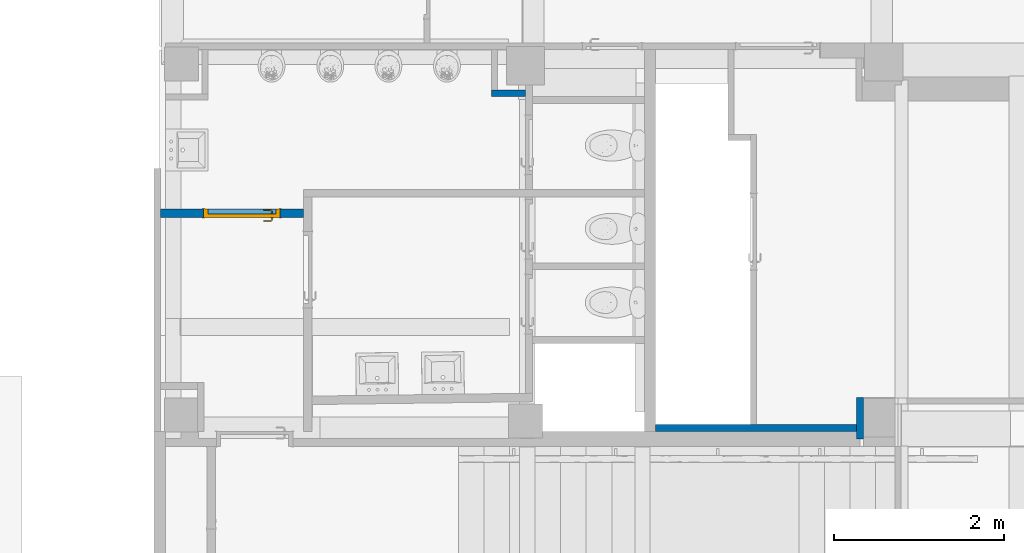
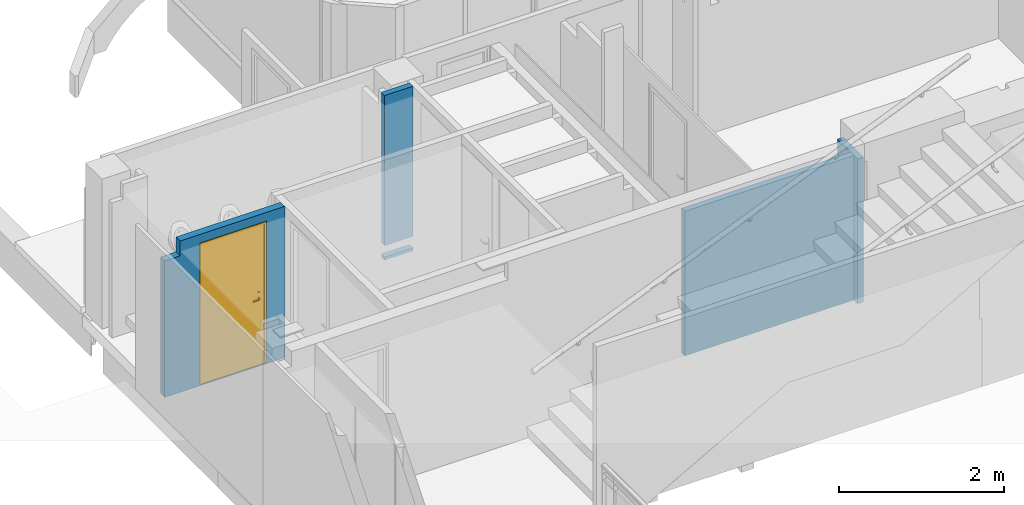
# One storey, part 4 of 32: 4 walls, 1 door, 2 openings.
"""IFC4 building model written with IfcOpenShell, lengths in metres."""

from ifc_helpers import new_model, entity, si_unit, converted_unit, derived_unit, direction, frame, origin, place, context, subcontext, project, spatial, indexed_curve, outline, extrude, polygons, source, transform, mapped, material, material_list, layer, layer_set, constituent, constituent_set, type_object, type_shapes, element, fill, save


model = new_model("IFC4")

# Units and contexts
model_context = context("Model", 3, precision=1e-05, world=origin(), true_north=direction((6.12303176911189e-17, 1.0)))
body_context = subcontext(model_context, "Body", "Model", "MODEL_VIEW")
ifc_project = project(units=[si_unit("LENGTHUNIT", "METRE"), si_unit("AREAUNIT", "SQUARE_METRE"), si_unit("VOLUMEUNIT", "CUBIC_METRE"), converted_unit("PLANEANGLEUNIT", "DEGREE", entity("IfcRatioMeasure", 0.0174532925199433), si_unit("PLANEANGLEUNIT", "RADIAN"), dimensions=[0, 0, 0, 0, 0, 0, 0]), si_unit("MASSUNIT", "GRAM", prefix="KILO"), derived_unit("MASSDENSITYUNIT", [(si_unit("MASSUNIT", "GRAM", prefix="KILO"), 1), (si_unit("LENGTHUNIT", "METRE"), -3)]), derived_unit("MOMENTOFINERTIAUNIT", [(si_unit("LENGTHUNIT", "METRE"), 4)]), si_unit("TIMEUNIT", "SECOND"), si_unit("FREQUENCYUNIT", "HERTZ"), si_unit("THERMODYNAMICTEMPERATUREUNIT", "DEGREE_CELSIUS"), derived_unit("THERMALTRANSMITTANCEUNIT", [(si_unit("MASSUNIT", "GRAM", prefix="KILO"), 1), (si_unit("THERMODYNAMICTEMPERATUREUNIT", "KELVIN"), -1), (si_unit("TIMEUNIT", "SECOND"), -3)]), derived_unit("VOLUMETRICFLOWRATEUNIT", [(si_unit("LENGTHUNIT", "METRE"), 3), (si_unit("TIMEUNIT", "SECOND"), -1)]), si_unit("ELECTRICCURRENTUNIT", "AMPERE"), si_unit("ELECTRICVOLTAGEUNIT", "VOLT"), si_unit("POWERUNIT", "WATT"), si_unit("FORCEUNIT", "NEWTON", prefix="KILO"), si_unit("ILLUMINANCEUNIT", "LUX"), si_unit("LUMINOUSFLUXUNIT", "LUMEN"), si_unit("LUMINOUSINTENSITYUNIT", "CANDELA"), derived_unit("USERDEFINED", [(si_unit("MASSUNIT", "GRAM", prefix="KILO"), -1), (si_unit("LENGTHUNIT", "METRE"), -2), (si_unit("TIMEUNIT", "SECOND"), 3), (si_unit("LUMINOUSFLUXUNIT", "LUMEN"), 1)]), derived_unit("LINEARVELOCITYUNIT", [(si_unit("LENGTHUNIT", "METRE"), 1), (si_unit("TIMEUNIT", "SECOND"), -1)]), si_unit("PRESSUREUNIT", "PASCAL"), derived_unit("USERDEFINED", [(si_unit("LENGTHUNIT", "METRE"), -2), (si_unit("MASSUNIT", "GRAM", prefix="KILO"), 1), (si_unit("TIMEUNIT", "SECOND"), -2)]), derived_unit("LINEARFORCEUNIT", [(si_unit("MASSUNIT", "GRAM", prefix="KILO"), 1), (si_unit("LENGTHUNIT", "METRE"), 1), (si_unit("TIMEUNIT", "SECOND"), -2), (si_unit("LENGTHUNIT", "METRE"), -1)]), derived_unit("PLANARFORCEUNIT", [(si_unit("MASSUNIT", "GRAM", prefix="KILO"), 1), (si_unit("LENGTHUNIT", "METRE"), 1), (si_unit("TIMEUNIT", "SECOND"), -2), (si_unit("LENGTHUNIT", "METRE"), -2)])], contexts=[model_context])

# Site, building, storey
site_placement = place(None, origin())
site = spatial("IfcSite", under=ifc_project, at=site_placement, Name="Default", CompositionType="ELEMENT")
building_placement = place(site_placement, origin())
building = spatial("IfcBuilding", under=site, at=building_placement, Name="HOTEL CONSULAIRE BOULOGNE SUR MER", CompositionType="ELEMENT")
storey_placement = place(building_placement, frame((0.0, 0.0, -2.70343668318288)))
storey = spatial("IfcBuildingStorey", under=building, at=storey_placement, Name="SS1", CompositionType="ELEMENT", Elevation=-2.70343668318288)

# Wall, opening, door
ifc_material_1 = material(Name="Mur par défaut", Category="Divers")
ifc_layer_1 = layer(ifc_material_1, 0.1, Name="Mur par défaut", Category="Divers")
ifc_layer_set_1 = layer_set([ifc_layer_1], Name="Mur de base:Générique - Int. 100 mm")
wall_type_1 = type_object("IfcWallType", Name="Mur de base:Générique - Int. 100 mm", PredefinedType="NOTDEFINED", material=ifc_layer_set_1)
wall_1_placement = place(storey_placement, frame((-3.84169934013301, -17.3491387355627, 0.195), z_axis=(0.0, 0.0, 1.0), x_axis=(-1.0, 0.0, 0.0)))
wall_1 = element("IfcWall", 1, at=wall_1_placement, inside=storey, type_object=wall_type_1, material=ifc_layer_set_1, Name="Mur de base:Générique - Int. 100 mm", ObjectType="Mur de base:Générique - Int. 100 mm", PredefinedType="NOTDEFINED", context=body_context, shape_type="Tessellation", body=[
    polygons([(4.96349598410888e-16, -0.0500000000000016, 0.0), (1.68028922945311, -0.0500000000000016, 0.0), (1.68028922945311, -0.0500000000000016, 2.01843668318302), (1.4628088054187, -0.0500000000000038, 2.01843668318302), (1.4628088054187, -0.0500000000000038, 2.23843668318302), (-4.50839662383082e-17, -0.0500000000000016, 2.23843668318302), (1.175, -0.0500000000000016, 2.095), (1.175, -0.0500000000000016, 0.0199999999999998), (0.275000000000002, -0.0500000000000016, 0.0199999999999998), (0.275000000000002, -0.0500000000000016, 2.095), (1.68028922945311, 0.0499999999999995, 0.0), (2.33183298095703e-16, 0.0499999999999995, 0.0), (2.33183298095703e-16, 0.0499999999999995, 2.23843668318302), (1.4628088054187, 0.0499999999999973, 2.23843668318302), (1.4628088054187, 0.0499999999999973, 2.01843668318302), (1.68028922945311, 0.0499999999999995, 2.01843668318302), (1.175, 0.0499999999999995, 0.0199999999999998), (1.175, 0.0499999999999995, 2.095), (0.275000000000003, 0.0499999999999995, 2.095), (0.275000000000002, 0.0499999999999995, 0.0199999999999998)], [[[1, 2, 3, 4, 5, 6], [10, 7, 8, 9]], [[11, 12, 13, 14, 15, 16], [17, 18, 19, 20]], [[2, 1, 12, 11]], [[18, 7, 10, 19]], [[6, 5, 14, 13]], [[17, 20, 9, 8]], [[4, 3, 16, 15]], [[2, 11, 16, 3]], [[19, 10, 9, 20]], [[4, 15, 14, 5]], [[12, 1, 6, 13]], [[18, 17, 8, 7]]], closed=True),
])
opening_1_placement = place(wall_1_placement, frame((0.275000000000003, -0.0500000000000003, 0.0199999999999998)))
opening_1 = element("IfcOpeningElement", 2, at=opening_1_placement, cuts=wall_1, Name="Int. Simple:PP (0.83m x 2.04m):1", ObjectType="Opening", PredefinedType="OPENING", context=body_context, shape_type="SweptSolid", body=[
    extrude(outline(indexed_curve([(0.0, 0.9), (0.0, -5.16515621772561e-30), (2.075, -5.16515621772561e-30), (2.075, 0.9), (0.0, 0.9)], self_intersect=False)), frame((0.0, 0.0, 0.0), z_axis=(0.0, 1.0, 0.0), x_axis=(0.0, 0.0, 1.0)), (0.0, 0.0, 1.0), 0.1),
])
ifc_material_2 = material(Name="Finition Peinture - Blanc satiné", Category="Peinture")
ifc_constituent_1 = constituent(ifc_material_2, Name="Finition Peinture - Blanc satiné", Category="Matériaux")
ifc_material_3 = material(Name="Bois - Panneau de porte", Category="Bois")
ifc_constituent_2 = constituent(ifc_material_3, Name="Bois - Panneau de porte", Category="Matériaux")
ifc_material_4 = material(Name="Bois - Cadre de porte", Category="Bois")
ifc_constituent_3 = constituent(ifc_material_4, Name="Bois - Cadre de porte", Category="Matériaux")
ifc_constituent_set = constituent_set(constituents=[ifc_constituent_1, ifc_constituent_2, ifc_constituent_3], Name="MaterialConstituentSet")
ifc_material_list = material_list([ifc_material_4, ifc_material_3, ifc_material_4, ifc_material_2])
door_type = type_object("IfcDoorType", Name="Int. Simple:PP (0.83m x 2.04m)", OperationType="NOTDEFINED", PredefinedType="DOOR", material=ifc_material_list)
shared_shape = source(origin(), body_context, "Body", "Tessellation", [
    polygons([(0.895000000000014, -0.00500000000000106, 0.870000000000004), (0.895000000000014, -0.00500000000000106, 1.08), (0.885352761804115, -0.00500000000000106, 1.08399601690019), (0.875000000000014, -0.00500000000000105, 1.08535898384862), (0.864647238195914, -0.00500000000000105, 1.08399601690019), (0.855000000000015, -0.00500000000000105, 1.08), (0.855000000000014, -0.00500000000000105, 0.870000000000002), (0.864647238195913, -0.00500000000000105, 0.866003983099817), (0.875000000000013, -0.00500000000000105, 0.86464101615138), (0.885352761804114, -0.00500000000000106, 0.866003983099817), (0.895000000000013, -1.06594733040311e-15, 0.870000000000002), (0.885352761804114, -1.06594733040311e-15, 0.866003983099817), (0.875000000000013, -1.05748743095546e-15, 0.86464101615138), (0.864647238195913, -1.05748743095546e-15, 0.866003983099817), (0.855000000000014, -1.04902753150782e-15, 0.870000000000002), (0.855000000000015, -1.04902753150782e-15, 1.08), (0.864647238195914, -1.05748743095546e-15, 1.08399601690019), (0.875000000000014, -1.05748743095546e-15, 1.08535898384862), (0.885352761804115, -1.06594733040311e-15, 1.08399601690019), (0.895000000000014, -1.06594733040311e-15, 1.08)], [[[1, 2, 3, 4, 5, 6, 7, 8, 9, 10]], [[20, 11, 12, 13, 14, 15, 16, 17, 18, 19]], [[10, 12, 11, 1]], [[9, 13, 12, 10]], [[8, 14, 13, 9]], [[8, 7, 15, 14]], [[15, 7, 6, 16]], [[5, 17, 16, 6]], [[4, 18, 17, 5]], [[3, 19, 18, 4]], [[3, 2, 20, 19]], [[11, 20, 2, 1]]], closed=True),
    polygons([(0.855000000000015, 0.0399999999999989, 1.08), (0.855000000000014, 0.0399999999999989, 0.870000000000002), (0.864647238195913, 0.0399999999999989, 0.866003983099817), (0.875000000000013, 0.0399999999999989, 0.86464101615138), (0.885352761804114, 0.0399999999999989, 0.866003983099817), (0.895000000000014, 0.0399999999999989, 0.870000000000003), (0.895000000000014, 0.0399999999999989, 1.08), (0.885352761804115, 0.0399999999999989, 1.08399601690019), (0.875000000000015, 0.0399999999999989, 1.08535898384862), (0.864647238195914, 0.0399999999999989, 1.08399601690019), (0.855000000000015, 0.0449999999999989, 1.08), (0.864647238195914, 0.0449999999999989, 1.08399601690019), (0.875000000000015, 0.0449999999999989, 1.08535898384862), (0.885352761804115, 0.0449999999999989, 1.08399601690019), (0.895000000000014, 0.0449999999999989, 1.08), (0.895000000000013, 0.0449999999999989, 0.870000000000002), (0.885352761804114, 0.0449999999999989, 0.866003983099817), (0.875000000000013, 0.0449999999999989, 0.86464101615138), (0.864647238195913, 0.0449999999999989, 0.866003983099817), (0.855000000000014, 0.0449999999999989, 0.870000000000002)], [[[6, 7, 8, 9, 10, 1, 2, 3, 4, 5]], [[13, 14, 15, 16, 17, 18, 19, 20, 11, 12]], [[10, 12, 11, 1]], [[9, 13, 12, 10]], [[8, 14, 13, 9]], [[8, 7, 15, 14]], [[16, 15, 7, 6]], [[5, 17, 16, 6]], [[4, 18, 17, 5]], [[3, 19, 18, 4]], [[3, 2, 20, 19]], [[20, 2, 1, 11]]], closed=True),
    polygons([(0.881000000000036, -0.00500000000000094, 1.00699999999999), (0.881000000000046, -0.00500000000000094, 0.992999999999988), (0.877025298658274, -0.00500000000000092, 0.99221955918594), (0.872974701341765, -0.0050000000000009, 0.992219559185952), (0.868999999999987, -0.00500000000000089, 0.993000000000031), (0.868999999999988, -0.00500000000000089, 1.007), (0.872974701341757, -0.0050000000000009, 1.00778044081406), (0.877025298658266, -0.00500000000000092, 1.00778044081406), (0.868999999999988, -0.0276803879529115, 1.007), (0.872974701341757, -0.0293267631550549, 1.00778044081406), (0.877025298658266, -0.0310045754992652, 1.00778044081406), (0.881000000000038, -0.0326509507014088, 1.007), (0.868999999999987, -0.0276803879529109, 0.993000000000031), (0.881000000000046, -0.0326509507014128, 0.992999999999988), (0.877025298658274, -0.0310045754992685, 0.99221955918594), (0.872974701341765, -0.0293267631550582, 0.992219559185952), (0.85765222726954, -0.0390281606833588, 1.007), (0.859298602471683, -0.0430028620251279, 1.00778044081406), (0.860976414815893, -0.0470534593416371, 1.00778044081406), (0.862622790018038, -0.051028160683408, 1.007), (0.857652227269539, -0.0390281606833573, 0.993000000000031), (0.862622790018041, -0.0510281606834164, 0.992999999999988), (0.860976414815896, -0.0470534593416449, 0.99221955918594), (0.859298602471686, -0.0430028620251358, 0.992219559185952), (0.774981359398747, -0.0510281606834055, 1.007), (0.774981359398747, -0.0470534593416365, 1.00778044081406), (0.774981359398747, -0.0430028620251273, 1.00778044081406), (0.774981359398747, -0.0390281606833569, 1.00699999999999), (0.774981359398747, -0.0390281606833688, 0.993000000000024), (0.774981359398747, -0.0430028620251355, 0.992219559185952), (0.774981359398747, -0.0470534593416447, 0.99221955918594), (0.774981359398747, -0.0510281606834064, 0.992999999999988), (0.822692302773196, -0.051028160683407, 1.007), (0.81713998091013, -0.045028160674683, 1.0078786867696), (0.816316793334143, -0.039028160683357, 1.007), (0.822692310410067, -0.0510281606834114, 0.992999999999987), (0.817139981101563, -0.0450281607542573, 0.992121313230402), (0.816316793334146, -0.0390281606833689, 0.993000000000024)], [[[7, 8, 1, 2, 3, 4, 5, 6]], [[17, 21, 38, 29, 28, 35]], [[1, 8, 11, 12]], [[8, 7, 10, 18, 19, 11]], [[7, 6, 9, 10]], [[13, 9, 6, 5]], [[25, 26, 27, 28, 29, 30, 31, 32]], [[4, 16, 13, 5]], [[4, 3, 15, 23, 24, 16]], [[2, 14, 15, 3]], [[12, 14, 2, 1]], [[12, 11, 19, 20]], [[10, 9, 17, 18]], [[21, 17, 9, 13]], [[13, 16, 24, 21]], [[15, 14, 22, 23]], [[20, 22, 14, 12]], [[34, 26, 33]], [[33, 26, 25]], [[33, 20, 19]], [[18, 35, 34]], [[35, 18, 17]], [[28, 27, 35]], [[34, 27, 26]], [[34, 35, 27]], [[34, 33, 19]], [[18, 34, 19]], [[37, 30, 38]], [[31, 37, 36]], [[24, 38, 21]], [[30, 29, 38]], [[31, 36, 32]], [[36, 23, 22]], [[37, 23, 36]], [[37, 24, 23]], [[37, 38, 24]], [[30, 37, 31]], [[22, 20, 33, 25, 32, 36]]], closed=True),
    polygons([(0.868999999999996, 0.0449999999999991, 0.993000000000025), (0.872974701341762, 0.0449999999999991, 0.992219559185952), (0.877025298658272, 0.0449999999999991, 0.99221955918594), (0.881000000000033, 0.044999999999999, 0.992999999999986), (0.881000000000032, 0.044999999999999, 1.007), (0.877025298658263, 0.0449999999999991, 1.00778044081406), (0.872974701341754, 0.0449999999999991, 1.00778044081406), (0.868999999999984, 0.0449999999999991, 1.007), (0.868999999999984, 0.067485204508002, 1.007), (0.868999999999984, 0.0674852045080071, 0.993000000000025), (0.881000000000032, 0.0724557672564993, 1.007), (0.877025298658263, 0.070809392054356, 1.00778044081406), (0.872974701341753, 0.0691315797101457, 1.00778044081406), (0.881000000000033, 0.0724557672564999, 0.992999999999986), (0.872974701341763, 0.0691315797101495, 0.992219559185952), (0.877025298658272, 0.0708093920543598, 0.99221955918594), (0.857514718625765, 0.0789704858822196, 1.007), (0.857514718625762, 0.0789704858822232, 0.993000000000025), (0.862485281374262, 0.0909704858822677, 1.007), (0.860838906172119, 0.0869957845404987, 1.00778044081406), (0.859161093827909, 0.0829451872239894, 1.00778044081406), (0.862485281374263, 0.0909704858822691, 0.992999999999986), (0.859161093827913, 0.0829451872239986, 0.992219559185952), (0.860838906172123, 0.0869957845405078, 0.99221955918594), (0.77495421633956, 0.0789704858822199, 0.993000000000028), (0.77495421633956, 0.0789704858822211, 1.007), (0.77495421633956, 0.0829451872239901, 1.00778044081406), (0.77495421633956, 0.0869957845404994, 1.00778044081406), (0.77495421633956, 0.0909704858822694, 1.007), (0.77495421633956, 0.0909704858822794, 0.992999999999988), (0.77495421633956, 0.086995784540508, 0.99221955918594), (0.77495421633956, 0.0829451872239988, 0.992219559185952), (0.822554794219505, 0.0909704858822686, 1.007), (0.817057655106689, 0.0849704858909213, 1.0078786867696), (0.816234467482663, 0.0789704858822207, 1.007), (0.822554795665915, 0.0909704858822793, 0.992999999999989), (0.817057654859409, 0.0849704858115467, 0.992121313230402), (0.816234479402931, 0.0789704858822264, 0.993000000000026)], [[[2, 3, 4, 5, 6, 7, 8, 1]], [[18, 17, 35, 26, 25, 38]], [[9, 10, 1, 8]], [[27, 28, 29, 30, 31, 32, 25, 26]], [[7, 13, 9, 8]], [[7, 6, 12, 20, 21, 13]], [[5, 11, 12, 6]], [[11, 5, 4, 14]], [[4, 3, 16, 14]], [[3, 2, 15, 23, 24, 16]], [[2, 1, 10, 15]], [[17, 18, 10, 9]], [[9, 13, 21, 17]], [[11, 19, 20, 12]], [[22, 19, 11, 14]], [[14, 16, 24, 22]], [[15, 10, 18, 23]], [[34, 27, 35]], [[28, 34, 33]], [[21, 35, 17]], [[27, 26, 35]], [[28, 33, 29]], [[33, 20, 19]], [[34, 20, 33]], [[34, 21, 20]], [[34, 35, 21]], [[27, 34, 28]], [[19, 22, 36, 30, 29, 33]], [[37, 31, 36]], [[36, 31, 30]], [[36, 22, 24]], [[23, 38, 37]], [[38, 23, 18]], [[25, 32, 38]], [[37, 32, 31]], [[37, 38, 32]], [[37, 36, 24]], [[23, 37, 24]]], closed=True),
    polygons([(0.935000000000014, 0.04, 2.04), (0.935000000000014, 0.04, 0.0), (0.105000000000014, 0.04, 0.0), (0.105000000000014, 0.04, 2.04), (0.935000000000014, 3.38395977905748e-17, 2.04), (0.105000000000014, 3.38395977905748e-17, 2.04), (0.105000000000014, 3.38395977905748e-17, 0.0), (0.935000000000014, 3.38395977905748e-17, 0.0)], [[[3, 4, 1, 2]], [[5, 6, 7, 8]], [[5, 1, 4, 6]], [[6, 4, 3, 7]], [[8, 7, 3, 2]], [[8, 2, 1, 5]]], closed=True),
    polygons([(0.970000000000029, 0.0, 0.0), (0.935000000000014, 0.0, 0.0), (0.935000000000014, 0.040000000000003, 0.0), (0.920000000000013, 0.040000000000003, 0.0), (0.920000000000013, 0.100000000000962, 0.0), (0.970000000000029, 0.100000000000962, 0.0), (0.970000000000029, 0.100000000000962, 2.07500000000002), (0.970000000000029, 0.0, 2.07500000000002), (0.920000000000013, 0.100000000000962, 2.025), (0.120000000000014, 0.100000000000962, 2.025), (0.120000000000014, 0.100000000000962, 6.02669015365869e-24), (0.0699999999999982, 0.100000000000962, 9.23443718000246e-25), (0.0699999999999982, 0.100000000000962, 2.07500000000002), (0.920000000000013, 0.040000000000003, 2.025), (0.935000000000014, 0.040000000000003, 2.04), (0.105000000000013, 0.040000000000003, 2.04), (0.105000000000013, 0.040000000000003, 1.51399294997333e-24), (0.120000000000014, 0.040000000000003, 1.99209609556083e-25), (0.120000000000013, 0.040000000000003, 2.025), (0.935000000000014, 0.0, 2.04), (0.0699999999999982, 0.0, 2.07500000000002), (0.0699999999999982, 0.0, 1.81925185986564e-24), (0.105000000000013, 0.0, 3.40121094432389e-24), (0.105000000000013, 0.0, 2.04)], [[[5, 6, 1, 2, 3, 4]], [[17, 23, 22, 12, 11, 18]], [[19, 10, 9, 14]], [[24, 16, 15, 20]], [[7, 8, 1, 6]], [[18, 11, 10, 19]], [[17, 16, 24, 23]], [[9, 10, 11, 12, 13, 7, 6, 5]], [[14, 9, 5, 4]], [[15, 3, 2, 20]], [[12, 22, 21, 13]], [[19, 14, 4, 3, 15, 16, 17, 18]], [[24, 20, 2, 1, 8, 21, 22, 23]], [[13, 21, 8, 7]]], closed=True),
    polygons([(0.955000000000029, 0.100000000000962, 1.35358391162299e-16), (0.955000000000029, 0.105000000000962, 1.35358391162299e-16), (0.985000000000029, 0.105000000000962, 1.35358391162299e-16), (0.985000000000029, 0.100000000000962, 1.35358391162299e-16), (0.985000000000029, 0.100000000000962, 2.09000000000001), (0.0550000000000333, 0.100000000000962, 2.09000000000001), (0.0550000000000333, 0.100000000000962, -5.44393448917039e-24), (0.0850000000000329, 0.100000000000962, 5.09144898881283e-24), (0.0850000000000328, 0.100000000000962, 2.06000000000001), (0.955000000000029, 0.100000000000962, 2.06000000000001), (0.985000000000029, 0.105000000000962, 2.09000000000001), (0.955000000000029, 0.105000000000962, 2.06000000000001), (0.0850000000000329, 0.105000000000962, 2.06000000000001), (0.0850000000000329, 0.105000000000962, -1.89153776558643e-24), (0.055000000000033, 0.105000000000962, 5.03766794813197e-24), (0.0550000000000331, 0.105000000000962, 2.09000000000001)], [[[2, 3, 4, 1]], [[7, 15, 14, 8]], [[13, 12, 10, 9]], [[9, 10, 1, 4, 5, 6, 7, 8]], [[11, 5, 4, 3]], [[8, 14, 13, 9]], [[12, 13, 14, 15, 16, 11, 3, 2]], [[10, 12, 2, 1]], [[15, 7, 6, 16]], [[16, 6, 5, 11]]], closed=True),
    polygons([(0.955000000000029, -0.005, 1.35358391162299e-16), (0.955000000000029, 0.0, 1.35358391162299e-16), (0.985000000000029, 0.0, 1.35358391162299e-16), (0.985000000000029, -0.005, 1.35358391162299e-16), (0.0850000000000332, -0.005, -1.35358391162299e-16), (0.0550000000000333, -0.005, -1.35358391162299e-16), (0.055000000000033, 0.0, -1.35358391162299e-16), (0.0850000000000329, 0.0, -1.35358391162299e-16), (0.985000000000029, -0.005, 2.09000000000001), (0.0550000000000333, -0.005, 2.09000000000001), (0.0850000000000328, -0.005, 2.06000000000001), (0.955000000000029, -0.005, 2.06000000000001), (0.985000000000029, 0.0, 2.09000000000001), (0.955000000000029, 0.0, 2.06000000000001), (0.0850000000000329, 0.0, 2.06000000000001), (0.0550000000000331, 0.0, 2.09000000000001)], [[[2, 3, 4, 1]], [[6, 7, 8, 5]], [[11, 15, 14, 12]], [[11, 12, 1, 4, 9, 10, 6, 5]], [[13, 9, 4, 3]], [[5, 8, 15, 11]], [[14, 15, 8, 7, 16, 13, 3, 2]], [[12, 14, 2, 1]], [[7, 6, 10, 16]], [[16, 10, 9, 13]]], closed=True),
])
type_shapes(door_type, [shared_shape])
door_placement = place(opening_1_placement, frame((0.970000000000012, 0.0999999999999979, 0.0), z_axis=(0.0, 0.0, 1.0), x_axis=(-1.0, 0.0, 0.0)))
door = element("IfcDoor", 3, at=door_placement, inside=storey, type_object=door_type, material=ifc_constituent_set, Name="Int. Simple:PP (0.83m x 2.04m)", ObjectType="Int. Simple:PP (0.83m x 2.04m)", OperationType="NOTDEFINED", OverallHeight=2.075, OverallWidth=0.900000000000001, PredefinedType="DOOR", context=body_context, shape_type="MappedRepresentation", body=[
    mapped(shared_shape, transform((0.0, 0.0, 0.0), scale=1.0)),
])
fill(opening_1, door)

# Wall, opening
ifc_layer_2 = layer(ifc_material_1, 0.08, Name="Mur par défaut", Category="Divers")
ifc_layer_set_2 = layer_set([ifc_layer_2], Name="Mur de base:Générique - Int. 80")
wall_type_2 = type_object("IfcWallType", Name="Mur de base:Générique - Int. 80", PredefinedType="NOTDEFINED", material=ifc_layer_set_2)
wall_2_placement = place(storey_placement, frame((-1.62646566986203, -15.9382334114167, 0.0)))
wall_2 = element("IfcWall", 4, at=wall_2_placement, inside=storey, type_object=wall_type_2, material=ifc_layer_set_2, Name="Mur de base:Générique - Int. 80", ObjectType="Mur de base:Générique - Int. 80", PredefinedType="NOTDEFINED", context=body_context, shape_type="SweptSolid", body=[
    extrude(outline(indexed_curve([(0.397642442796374, 0.0399999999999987), (-1.30639922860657e-16, 0.0399999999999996), (-1.40076859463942e-16, -0.0399999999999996), (0.397642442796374, -0.0400000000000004), (0.397642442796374, 0.0399999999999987)], self_intersect=False)), origin(), (0.0, 0.0, 1.0), 2.43343668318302),
])
opening_2_placement = place(storey_placement, frame((-1.62646566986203, -15.9382334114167, 0.0)))
element("IfcOpeningElement", 5, at=opening_2_placement, cuts=wall_2, Name="Mur de base:Générique - Int. 80:1", ObjectType="Opening", PredefinedType="OPENING", context=body_context, shape_type="SweptSolid", body=[
    extrude(outline(indexed_curve([(-0.198821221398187, -0.0400000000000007), (0.198821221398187, -0.0400000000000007), (0.198821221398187, 0.0399999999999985), (-0.198821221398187, 0.0399999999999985), (-0.198821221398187, -0.0400000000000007)], self_intersect=False)), frame((0.198821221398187, 0.0, 0.0450000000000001)), (0.0, 0.0, 1.0), 0.17),
])

# Walls
wall_3_placement = place(storey_placement, frame((2.70617677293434, -20.0049143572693, 0.294), z_axis=(0.0, 0.0, 1.0), x_axis=(0.0, 1.0, 0.0)))
element("IfcWall", 6, at=wall_3_placement, inside=storey, type_object=wall_type_2, material=ifc_layer_set_2, Name="Mur de base:Générique - Int. 80", ObjectType="Mur de base:Générique - Int. 80", PredefinedType="NOTDEFINED", context=body_context, shape_type="SweptSolid", body=[
    extrude(outline(indexed_curve([(0.490000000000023, 0.0400000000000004), (-6.47469963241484e-17, 0.0400000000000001), (6.47469963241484e-17, -0.0400000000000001), (0.490000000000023, -0.0399999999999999), (0.490000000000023, 0.0400000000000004)], self_intersect=False)), origin(), (0.0, 0.0, 1.0), 2.13943668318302),
])
wall_4_placement = place(storey_placement, frame((0.302268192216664, -19.8749143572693, 0.294)))
element("IfcWall", 7, at=wall_4_placement, inside=storey, type_object=wall_type_2, material=ifc_layer_set_2, Name="Mur de base:Générique - Int. 80", ObjectType="Mur de base:Générique - Int. 80", PredefinedType="NOTDEFINED", context=body_context, shape_type="SweptSolid", body=[
    extrude(outline(indexed_curve([(2.40390858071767, 0.0399999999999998), (-1.22739084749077e-17, 0.0399999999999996), (1.22739084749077e-17, -0.0399999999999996), (2.40390858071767, -0.0399999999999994), (2.40390858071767, 0.0399999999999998)], self_intersect=False)), origin(), (0.0, 0.0, 1.0), 2.13943668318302),
])

save(model, "model.ifc")
